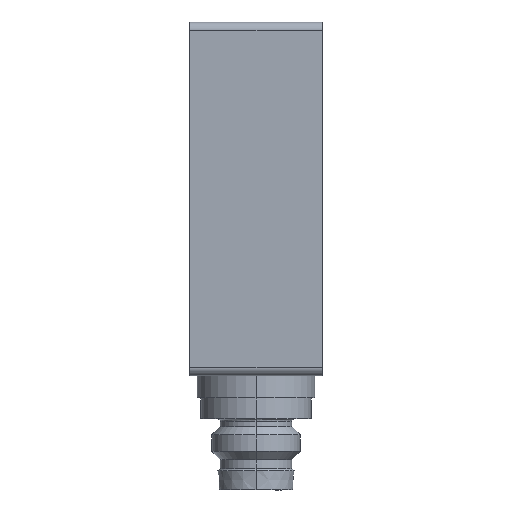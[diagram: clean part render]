
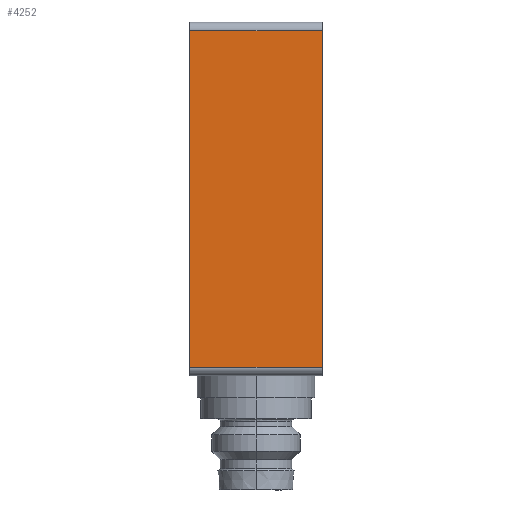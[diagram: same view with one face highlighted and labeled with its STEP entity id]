
A CAD part, left-side view. The second image highlights one B-rep face of the part: STEP entity #4252.
In plain terms, the highlighted planar face has unit normal (-1, 0, 0).
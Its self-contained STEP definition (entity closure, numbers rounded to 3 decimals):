
#4096=CARTESIAN_POINT('',(-10.7,-6.,31.3));
#4097=VERTEX_POINT('',#4096);
#4105=CARTESIAN_POINT('',(-10.7,-6.,0.8));
#4106=VERTEX_POINT('',#4105);
#4107=CARTESIAN_POINT('',(-10.7,-6.,0.8));
#4108=DIRECTION('',(0.0,0.0,1.0));
#4109=VECTOR('',#4108,30.5);
#4110=LINE('',#4107,#4109);
#4111=EDGE_CURVE('',#4106,#4097,#4110,.T.);
#4209=CARTESIAN_POINT('',(-10.7,6.,31.3));
#4210=VERTEX_POINT('',#4209);
#4218=CARTESIAN_POINT('',(-10.7,-6.,31.3));
#4219=DIRECTION('',(0.0,1.0,0.0));
#4220=VECTOR('',#4219,12.);
#4221=LINE('',#4218,#4220);
#4222=EDGE_CURVE('',#4097,#4210,#4221,.T.);
#4229=CARTESIAN_POINT('',(-10.7,0.0,31.3));
#4230=DIRECTION('',(-1.0,0.0,0.0));
#4231=DIRECTION('',(0.0,0.0,1.0));
#4232=AXIS2_PLACEMENT_3D('',#4229,#4230,#4231);
#4233=PLANE('',#4232);
#4234=CARTESIAN_POINT('',(-10.7,6.,0.8));
#4235=VERTEX_POINT('',#4234);
#4236=CARTESIAN_POINT('',(-10.7,6.,31.3));
#4237=DIRECTION('',(0.0,0.0,-1.0));
#4238=VECTOR('',#4237,30.5);
#4239=LINE('',#4236,#4238);
#4240=EDGE_CURVE('',#4210,#4235,#4239,.T.);
#4241=ORIENTED_EDGE('',*,*,#4240,.T.);
#4242=CARTESIAN_POINT('',(-10.7,-6.,0.8));
#4243=DIRECTION('',(0.0,1.0,0.0));
#4244=VECTOR('',#4243,12.);
#4245=LINE('',#4242,#4244);
#4246=EDGE_CURVE('',#4106,#4235,#4245,.T.);
#4247=ORIENTED_EDGE('',*,*,#4246,.F.);
#4248=ORIENTED_EDGE('',*,*,#4111,.T.);
#4249=ORIENTED_EDGE('',*,*,#4222,.T.);
#4250=EDGE_LOOP('',(#4241,#4247,#4248,#4249));
#4251=FACE_OUTER_BOUND('',#4250,.T.);
#4252=ADVANCED_FACE('',(#4251),#4233,.T.);
